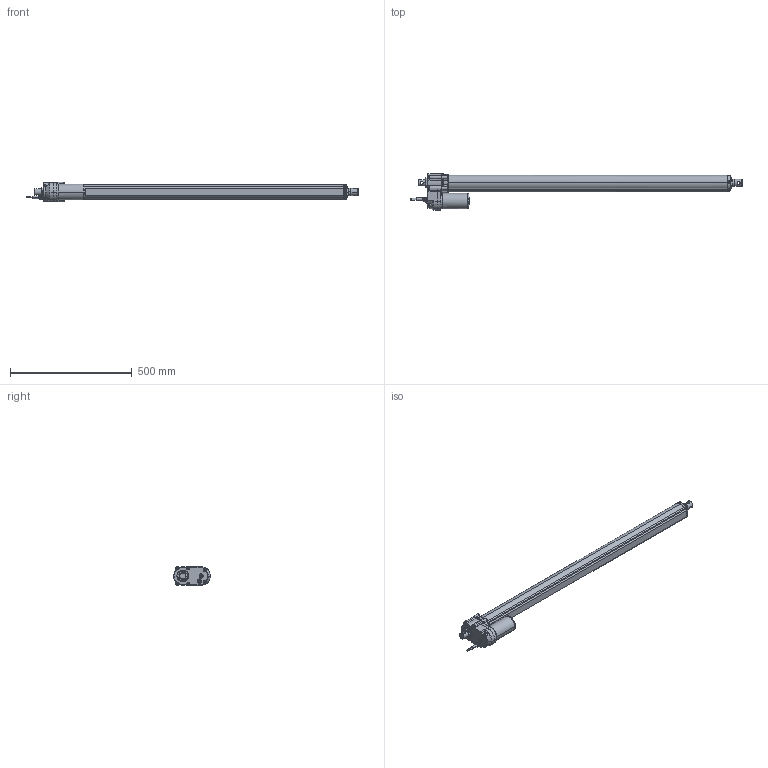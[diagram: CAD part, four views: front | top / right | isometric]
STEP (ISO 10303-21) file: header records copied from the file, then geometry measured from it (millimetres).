
FILE_DESCRIPTION(('STEP AP203'),'1');
FILE_NAME('LINACT-33P-1000MM.stp','2025-11-20T12:31:51',('Linear Actuators S.A.'),('Linear Actuators South Africa (Pty) Ltd'),'Spatial InterOp 3D',' ',' ');
FILE_SCHEMA(('CONFIG_CONTROL_DESIGN'));
Length unit declared in the file: millimetre
Products named in the file (1): 1
Bounding box: 1361.27 x 151.4 x 79 mm (x, y, z)
Volume: 4934652.5 mm3; surface area: 332407.6 mm2
Topology: 1 solids, 1 shells, 940 faces, 2391 edges, 1467 vertices
Faces by surface type: torus 294, plane 239, cylinder 234, bspline 105, cone 66, sphere 2
Entity records: 41074 total; most frequent: CARTESIAN_POINT 19629, ORIENTED_EDGE 4728, DIRECTION 4260, EDGE_CURVE 2364, AXIS2_PLACEMENT_3D 1786, VERTEX_POINT 1467, EDGE_LOOP 985, CIRCLE 942
